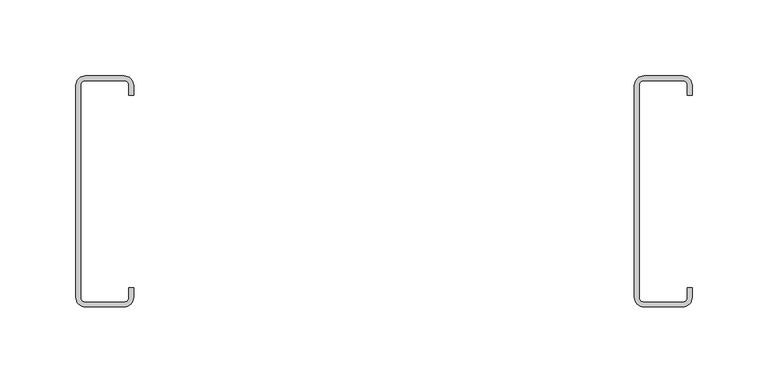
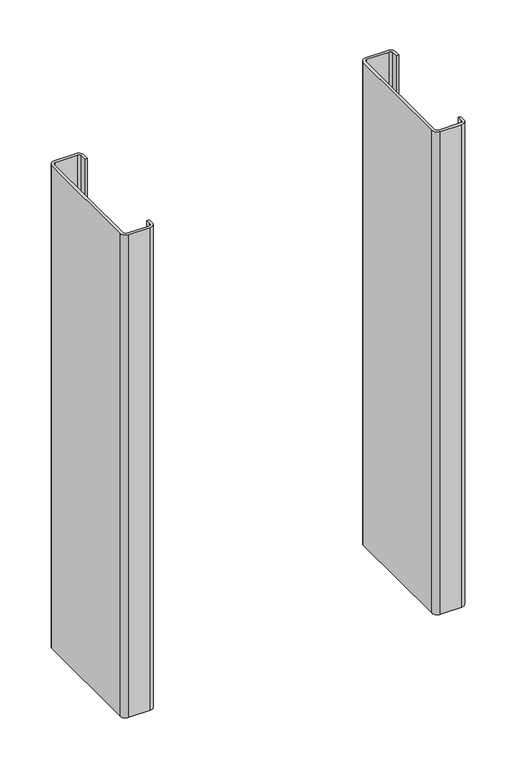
"""IFC4 building model written with IfcOpenShell, lengths in millimetres: proxy geometry, CRAi Generic Model Metal Stud Array : CRAi Generic Model Metal Stud Array."""

from ifc_helpers import new_model, si_unit, point, frame_2d, origin, origin_with_axes, place, context, project, spatial, polyline, circle_curve, trimmed, segment, composite_curve, outline, extrude, source, transform, mapped, element, save


def generic_models_9d0e7a2a(model_context):
    return source(origin(), model_context, "Body", "SweptSolid", [
        extrude(outline(composite_curve([segment(polyline([(203.2, 63.5), (200.025, 63.5), (200.025, 70.2679713)]), True, "CONTINUOUS"), segment(trimmed(circle_curve(frame_2d((196.85, 69.85)), 3.2023936), [point((200.025, 70.2679713))], [point((197.2679713, 73.025))], True, "CARTESIAN"), True, "CONTINUOUS"), segment(polyline([(197.2679713, 73.025), (171.0320287, 73.025)]), True, "CONTINUOUS"), segment(trimmed(circle_curve(frame_2d((171.45, 69.85)), 3.2023936), [point((171.0320287, 73.025))], [point((168.275, 70.2679713))], True, "CARTESIAN"), True, "CONTINUOUS"), segment(polyline([(168.275, 70.2679713), (168.275, -70.2679713)]), True, "CONTINUOUS"), segment(trimmed(circle_curve(frame_2d((171.45, -69.85)), 3.2023936), [point((168.275, -70.2679713))], [point((171.0320287, -73.025))], True, "CARTESIAN"), True, "CONTINUOUS"), segment(polyline([(171.0320287, -73.025), (197.2679713, -73.025)]), True, "CONTINUOUS"), segment(trimmed(circle_curve(frame_2d((196.85, -69.85)), 3.2023936), [point((197.2679713, -73.025))], [point((200.025, -70.2679713))], True, "CARTESIAN"), True, "CONTINUOUS"), segment(polyline([(200.025, -70.2679713), (200.025, -63.5), (203.2, -63.5), (203.2, -69.85)]), True, "CONTINUOUS"), segment(trimmed(circle_curve(frame_2d((196.85, -69.85)), 6.35), [point((203.2, -69.85))], [point((196.85, -76.2))], False, "CARTESIAN"), True, "CONTINUOUS"), segment(polyline([(196.85, -76.2), (171.45, -76.2)]), True, "CONTINUOUS"), segment(trimmed(circle_curve(frame_2d((171.45, -69.85)), 6.35), [point((171.45, -76.2))], [point((165.1, -69.85))], False, "CARTESIAN"), True, "CONTINUOUS"), segment(polyline([(165.1, -69.85), (165.1, 69.85)]), True, "CONTINUOUS"), segment(trimmed(circle_curve(frame_2d((171.45, 69.85)), 6.35), [point((165.1, 69.85))], [point((171.45, 76.2))], False, "CARTESIAN"), True, "CONTINUOUS"), segment(polyline([(171.45, 76.2), (196.85, 76.2)]), True, "CONTINUOUS"), segment(trimmed(circle_curve(frame_2d((196.85, 69.85)), 6.35), [point((196.85, 76.2))], [point((203.2, 69.85))], False, "CARTESIAN"), True, "CONTINUOUS"), segment(polyline([(203.2, 69.85), (203.2, 63.5)]), True, "CONTINUOUS")], self_intersect=False)), origin_with_axes(), (0.0, 0.0, 1.0), 603.25),
        extrude(outline(composite_curve([segment(polyline([(-165.1, 63.5), (-168.275, 63.5), (-168.275, 70.2679713)]), True, "CONTINUOUS"), segment(trimmed(circle_curve(frame_2d((-171.45, 69.85)), 3.2023936), [point((-168.275, 70.2679713))], [point((-171.0320287, 73.025))], True, "CARTESIAN"), True, "CONTINUOUS"), segment(polyline([(-171.0320287, 73.025), (-197.2679713, 73.025)]), True, "CONTINUOUS"), segment(trimmed(circle_curve(frame_2d((-196.85, 69.85)), 3.2023936), [point((-197.2679713, 73.025))], [point((-200.025, 70.2679713))], True, "CARTESIAN"), True, "CONTINUOUS"), segment(polyline([(-200.025, 70.2679713), (-200.025, -70.2679713)]), True, "CONTINUOUS"), segment(trimmed(circle_curve(frame_2d((-196.85, -69.85)), 3.2023936), [point((-200.025, -70.2679713))], [point((-197.2679713, -73.025))], True, "CARTESIAN"), True, "CONTINUOUS"), segment(polyline([(-197.2679713, -73.025), (-171.0320287, -73.025)]), True, "CONTINUOUS"), segment(trimmed(circle_curve(frame_2d((-171.45, -69.85)), 3.2023936), [point((-171.0320287, -73.025))], [point((-168.275, -70.2679713))], True, "CARTESIAN"), True, "CONTINUOUS"), segment(polyline([(-168.275, -70.2679713), (-168.275, -63.5), (-165.1, -63.5), (-165.1, -69.85)]), True, "CONTINUOUS"), segment(trimmed(circle_curve(frame_2d((-171.45, -69.85)), 6.35), [point((-165.1, -69.85))], [point((-171.45, -76.2))], False, "CARTESIAN"), True, "CONTINUOUS"), segment(polyline([(-171.45, -76.2), (-196.85, -76.2)]), True, "CONTINUOUS"), segment(trimmed(circle_curve(frame_2d((-196.85, -69.85)), 6.35), [point((-196.85, -76.2))], [point((-203.2, -69.85))], False, "CARTESIAN"), True, "CONTINUOUS"), segment(polyline([(-203.2, -69.85), (-203.2, 69.85)]), True, "CONTINUOUS"), segment(trimmed(circle_curve(frame_2d((-196.85, 69.85)), 6.35), [point((-203.2, 69.85))], [point((-196.85, 76.2))], False, "CARTESIAN"), True, "CONTINUOUS"), segment(polyline([(-196.85, 76.2), (-171.45, 76.2)]), True, "CONTINUOUS"), segment(trimmed(circle_curve(frame_2d((-171.45, 69.85)), 6.35), [point((-171.45, 76.2))], [point((-165.1, 69.85))], False, "CARTESIAN"), True, "CONTINUOUS"), segment(polyline([(-165.1, 69.85), (-165.1, 63.5)]), True, "CONTINUOUS")], self_intersect=False)), origin_with_axes(), (0.0, 0.0, 1.0), 603.25),
    ])


if __name__ == "__main__":
    model = new_model("IFC4")
    model_context = context("Model", 3, world=origin())
    ifc_project = project(units=[si_unit("LENGTHUNIT", "METRE", prefix="MILLI")], contexts=[model_context])
    site = spatial("IfcSite", under=ifc_project)
    building = spatial("IfcBuilding", under=site)
    placement = place(None, origin())
    generic_models_shape = generic_models_9d0e7a2a(model_context)
    element("IfcBuildingElementProxy", 1, Name="CRAi Generic Model Metal Stud Array : CRAi Generic Model Metal Stud Array", ObjectType="CRAi Generic Model Metal Stud Array : CRAi Generic Model Metal Stud Array", at=placement, inside=building, context=model_context, shape_type="MappedRepresentation", body=[
        mapped(generic_models_shape, transform((0.0, 0.0, 0.0), x_axis=(1.0, 0.0, 0.0), y_axis=(0.0, 1.0, 0.0), z_axis=(0.0, 0.0, 1.0))),
    ])
    save(model, "model.ifc")
